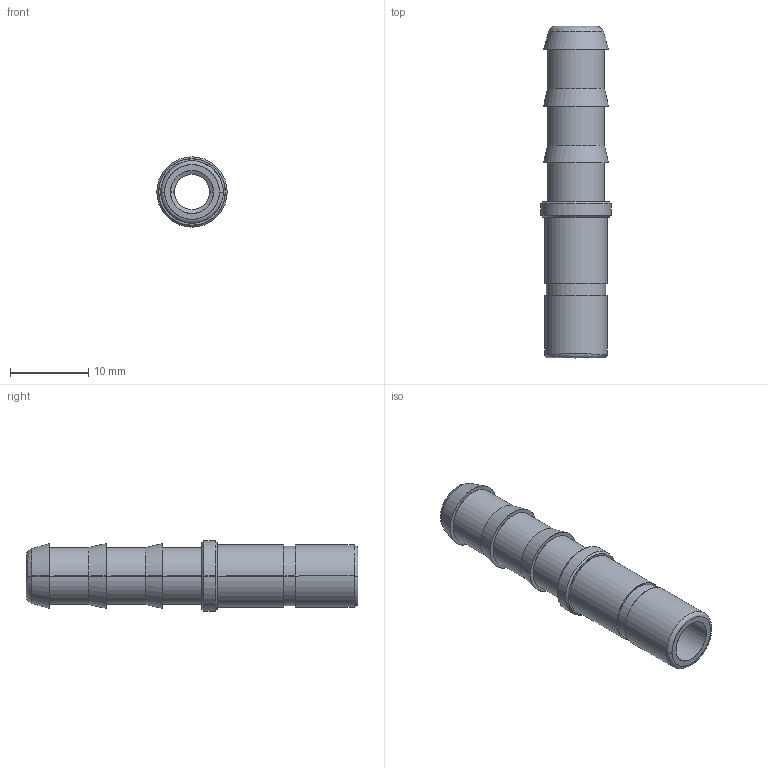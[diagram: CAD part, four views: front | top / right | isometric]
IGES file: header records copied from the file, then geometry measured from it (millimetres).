
Start section: SolidWorks IGES file using analytic representation for surfaces
Global section: file name: C:\Users\cad06\Desktop\Nuova cartella\CH0280001WI00.IGS; native system: SolidWorks 2016; preprocessor: SolidWorks 2016; author: cad06; date: 160520.143149; units: millimetre
Bounding box: 9 x 42.5 x 9 mm (x, y, z)
Surface area: 1806.9 mm2 (no closed solid volume)
Topology: 0 solids, 0 shells, 43 faces, 712 edges, 712 vertices
Faces by surface type: revolution 30, bspline 13
